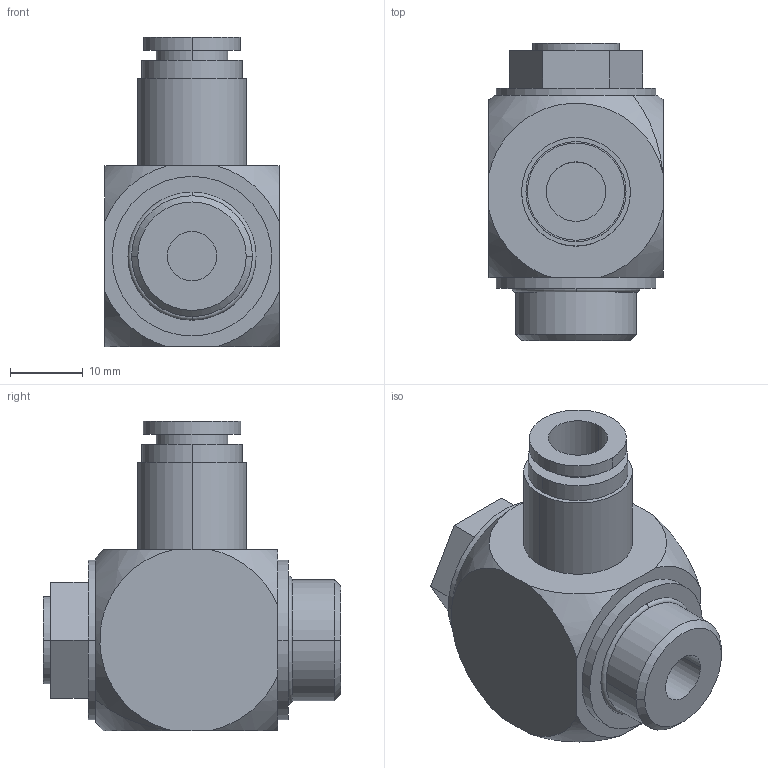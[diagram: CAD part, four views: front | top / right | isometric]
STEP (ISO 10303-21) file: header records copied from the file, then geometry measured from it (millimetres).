
FILE_DESCRIPTION((''),'2;1');
FILE_NAME('0821200248','2017-09-28T',('pug1hc'),(''),'CREO PARAMETRIC BY PTC INC, 2016260','CREO PARAMETRIC BY PTC INC, 2016260','');
FILE_SCHEMA(('CONFIG_CONTROL_DESIGN'));
Length unit declared in the file: millimetre
Products named in the file (1): 0821200248
Bounding box: 24 x 41 x 42.7 mm (x, y, z)
Volume: 19407.9 mm3; surface area: 5965.5 mm2
Topology: 1 solids, 1 shells, 62 faces, 134 edges, 88 vertices
Faces by surface type: plane 28, cylinder 24, bspline 6, torus 2, cone 2
Entity records: 2217 total; most frequent: CARTESIAN_POINT 788, DIRECTION 298, ORIENTED_EDGE 268, EDGE_CURVE 134, AXIS2_PLACEMENT_3D 120, VERTEX_POINT 88, EDGE_LOOP 76, CIRCLE 64
